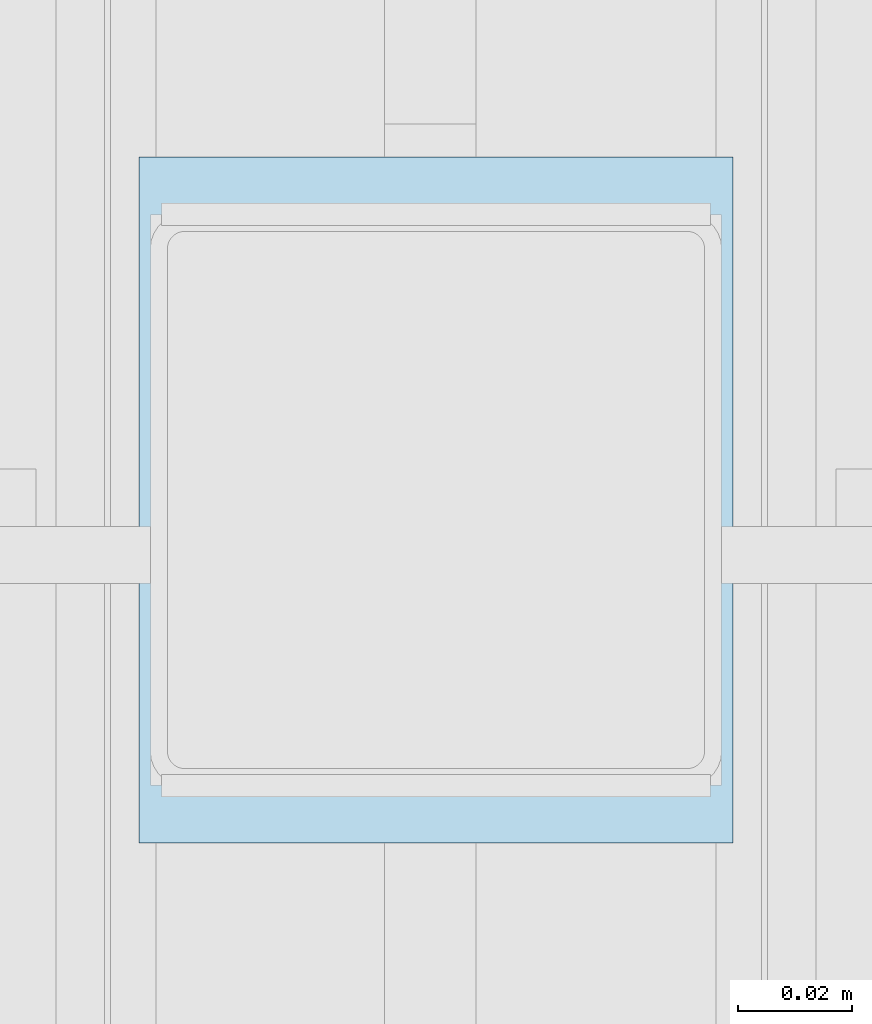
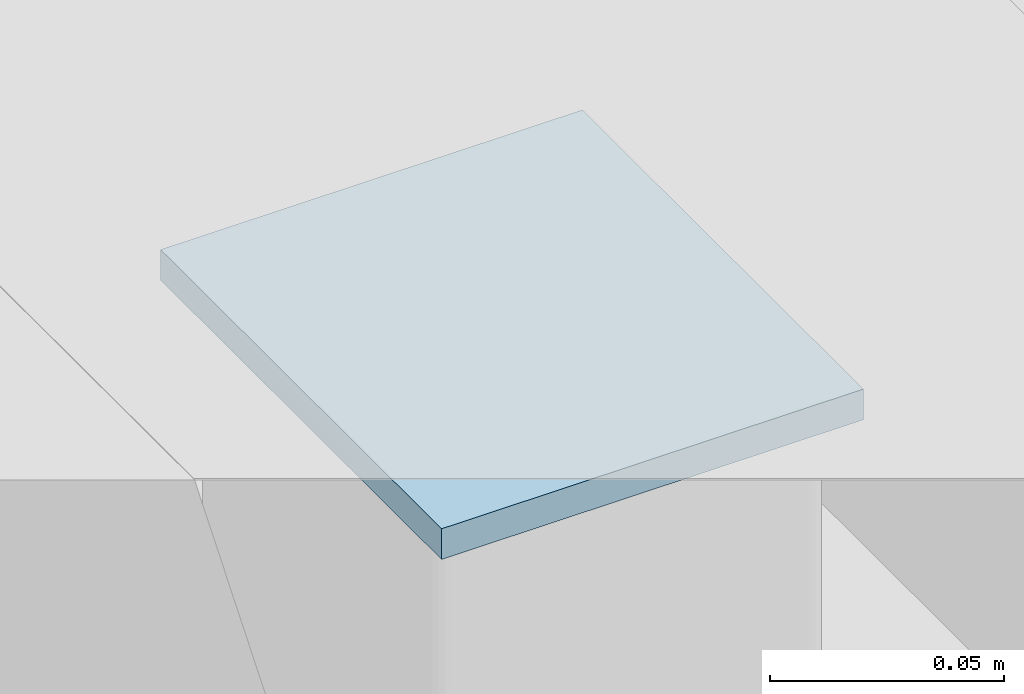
# One storey, part 126 of 271: 1 plate, 1 element without a shape of its own.
"""IFC2X3 building model written with IfcOpenShell, lengths in millimetres."""

from ifc_helpers import new_model, si_unit, frame, origin_with_axes, place, context, subcontext, project, spatial, polyline, outline, extrude, material, type_object, element, aggregate, save


model = new_model("IFC2X3")

# Units and contexts
model_context = context("Model", 3, precision=1e-05, world=origin_with_axes())
body_context = subcontext(model_context, "Body", "Model", "MODEL_VIEW")
ifc_project = project(units=[si_unit("LENGTHUNIT", "METRE", prefix="MILLI"), si_unit("AREAUNIT", "SQUARE_METRE"), si_unit("VOLUMEUNIT", "CUBIC_METRE"), si_unit("MASSUNIT", "GRAM", prefix="KILO"), si_unit("TIMEUNIT", "SECOND"), si_unit("PLANEANGLEUNIT", "RADIAN"), si_unit("SOLIDANGLEUNIT", "STERADIAN"), si_unit("THERMODYNAMICTEMPERATUREUNIT", "DEGREE_CELSIUS"), si_unit("LUMINOUSINTENSITYUNIT", "LUMEN")], contexts=[model_context])

# Site, building, storey
site_placement = place(None, origin_with_axes())
site = spatial("IfcSite", under=ifc_project, at=site_placement, Name="Undefined", CompositionType="ELEMENT")
building_placement = place(site_placement, origin_with_axes())
building = spatial("IfcBuilding", under=site, at=building_placement, Name="Undefined", CompositionType="ELEMENT")
storey_placement = place(building_placement, origin_with_axes())
storey = spatial("IfcBuildingStorey", under=building, at=storey_placement, Name="Undefined", CompositionType="ELEMENT", Elevation=0.0)

# Assembly, plate
assembly_placement = place(storey_placement, origin_with_axes())
assembly = element("IfcElementAssembly", 1, at=assembly_placement, inside=storey, AssemblyPlace="NOTDEFINED", PredefinedType="RIGID_FRAME")
ifc_material = material(Name="STEEL/S355JR")
plate_type = type_object("IfcPlateType", Name="BL8*104", PredefinedType="NOTDEFINED")
plate_placement = place(assembly_placement, frame((6400.37568736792, 2858.92439872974, -59.6500000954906), z_axis=(0.0, 0.0, 1.0), x_axis=(-1.0, 0.0, 1.38777878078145e-17)))
plate = element("IfcPlate", 2, at=plate_placement, type_object=plate_type, material=ifc_material, Name="BLACHA", ObjectType="BL8*104", context=body_context, shape_type="SweptSolid", body=[
    extrude(outline(polyline([(0.0, 0.0), (104.0, 0.0), (104.0, 120.0), (0.0, 120.0), (0.0, 0.0)])), frame((0.0, 0.0, -4.0), z_axis=(0.0, 0.0, 1.0), x_axis=(1.0, 0.0, 0.0)), (0.0, 0.0, 1.0), 8.0),
])
aggregate(assembly, [plate])

save(model, "model.ifc")
